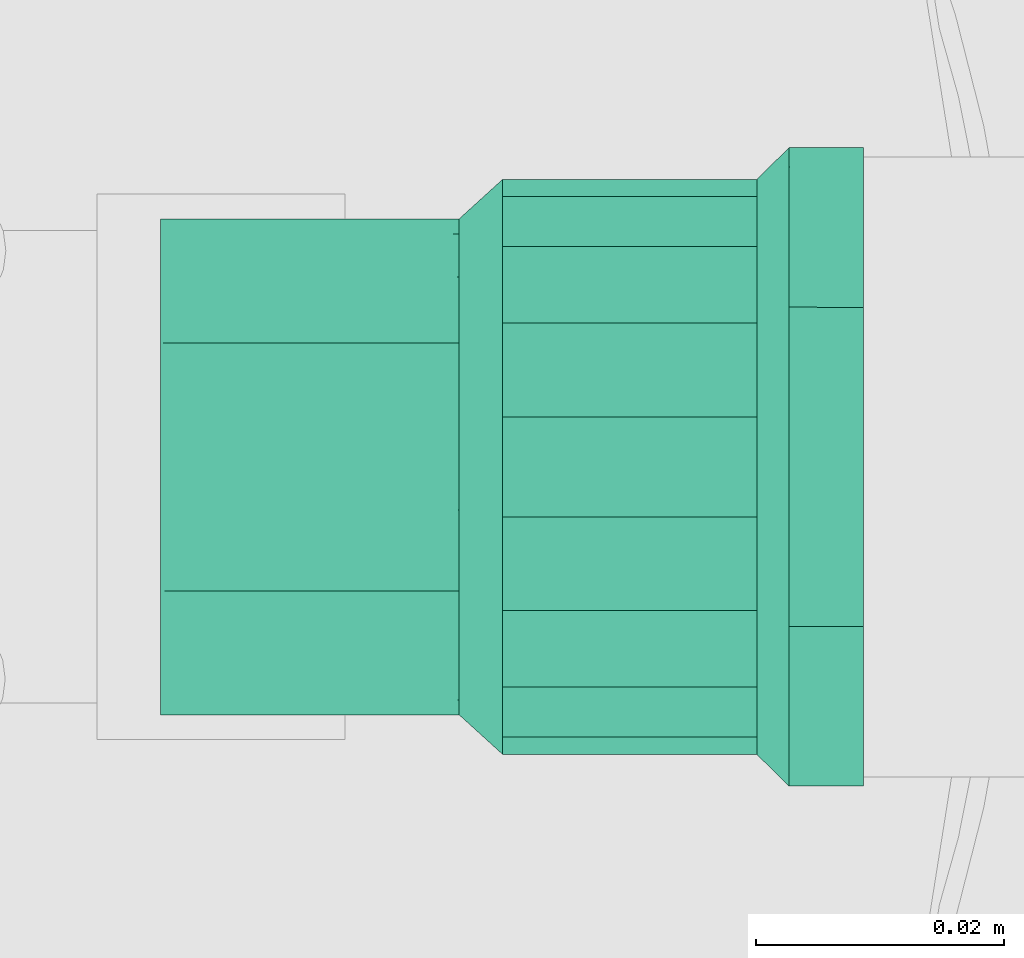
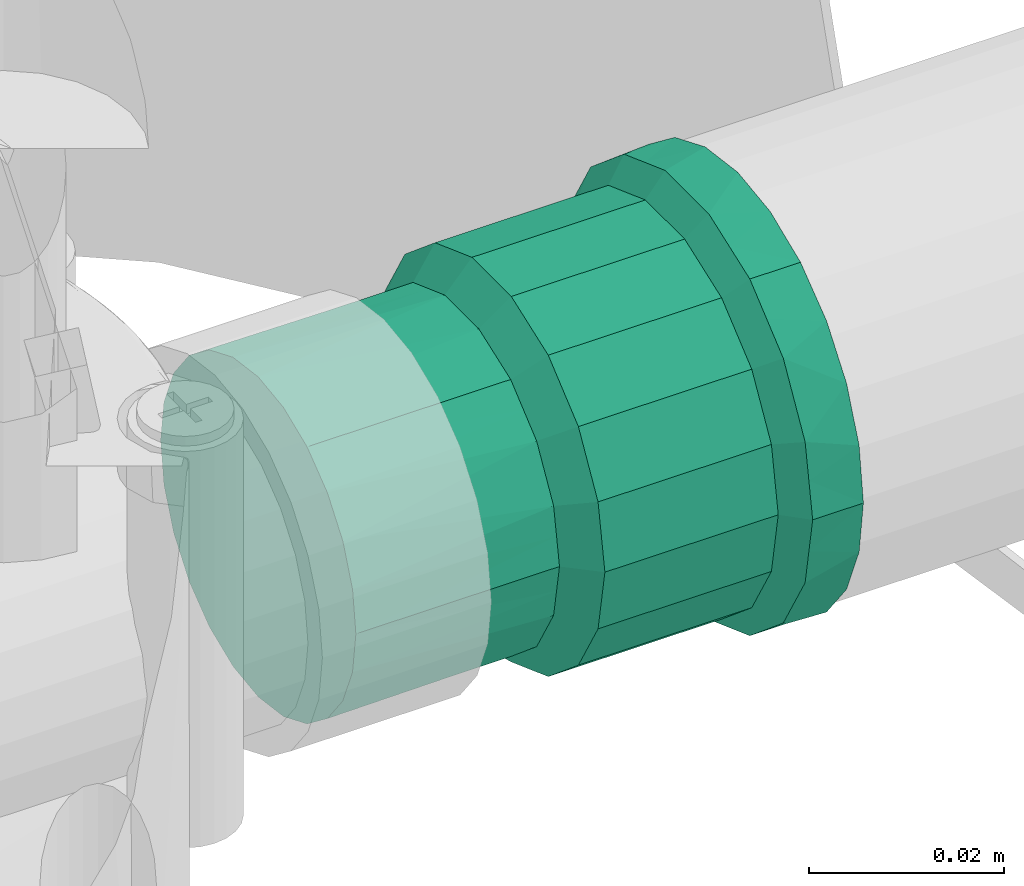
# One storey, part 150 of 166: 1 flow fitting.
"""IFC2X3 building model written with IfcOpenShell, lengths in metres."""

from ifc_helpers import new_model, entity, si_unit, converted_unit, direction, frame, origin, place, context, subcontext, project, spatial, faceted_brep, source, transform, mapped, material, type_object, type_shapes, element, save


model = new_model("IFC2X3")

# Units and contexts
model_context = context("Model", 3, precision=1e-05, world=origin(), true_north=direction((6.123233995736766e-17, 1.0)))
body_context = subcontext(model_context, "Body", "Model", "MODEL_VIEW")
ifc_project = project(units=[si_unit("LENGTHUNIT", "METRE"), converted_unit("PLANEANGLEUNIT", "DEGREE", entity("IfcPlaneAngleMeasure", 0.017453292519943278), si_unit("PLANEANGLEUNIT", "RADIAN"), dimensions=[0, 0, 0, 0, 0, 0, 0]), si_unit("AREAUNIT", "SQUARE_METRE")], contexts=[model_context])

# Site, building, storey
site_placement = place(None, origin())
site = spatial("IfcSite", under=ifc_project, at=site_placement, Name="Default", CompositionType="ELEMENT")
building_placement = place(site_placement, origin())
building = spatial("IfcBuilding", under=site, at=building_placement, Name="CASA DE ACOLHIDA PARA IDOSOS", CompositionType="ELEMENT")
storey_placement = place(building_placement, frame((0.0, 0.0, -1.7499999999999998)))
storey = spatial("IfcBuildingStorey", under=building, at=storey_placement, Name="IMPLANTAÇÃO DRENAGEM", CompositionType="ELEMENT", Elevation=-1.7499999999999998)

# Flow fitting
ifc_material = material(Name="PVC Marrom")
pipe_fitting_type = type_object("IfcPipeFittingType", Name="AF_Soldavel_Adaptador Curto com Bolsa e Rosca:Standard", PredefinedType="NOTDEFINED", material=ifc_material)
shared_shape = source(origin(), body_context, "Body", "Brep", [
    faceted_brep([(0.0, -0.012875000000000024, -0.02230015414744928), (0.0, -0.018207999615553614, -0.018207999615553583), (0.0, -0.0099999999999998, -0.017320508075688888), (0.0, -0.0051763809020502, -0.019318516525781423), (0.0, -0.006664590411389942, -0.0248725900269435), (0.0, -0.014142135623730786, -0.014142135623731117), (0.0, -0.022300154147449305, -0.01287499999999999), (0.0, -0.01732050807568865, -0.01000000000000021), (0.0, -0.0193185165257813, -0.005176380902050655), (0.0, -0.02487259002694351, -0.006664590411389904), (0.0, -0.02, 0.0), (0.0, -0.025750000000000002, 0.0), (0.0, -0.019318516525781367, 0.00517638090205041), (0.0, -0.024872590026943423, 0.006664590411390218), (0.0, -0.01732050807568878, 0.00999999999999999), (0.0, -0.02230015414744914, 0.012875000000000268), (0.0, -0.014142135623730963, 0.014142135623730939), (0.0, -0.018207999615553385, 0.018207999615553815), (0.0, -0.010000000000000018, 0.017320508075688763), (0.0, -0.012874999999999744, 0.022300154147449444), (0.0, -0.00517638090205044, 0.01931851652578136), (0.0, -0.006664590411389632, 0.024872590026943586), (0.0, 0.0, 0.02), (0.0, 0.0, 0.025750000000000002), (0.0, 0.005176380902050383, 0.019318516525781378), (0.0, 0.0066645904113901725, 0.024872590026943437), (0.0, 0.009999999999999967, 0.017320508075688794), (0.0, 0.012875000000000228, 0.022300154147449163), (0.0, 0.01414213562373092, 0.014142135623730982), (0.0, 0.01820799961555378, 0.01820799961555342), (0.0, 0.01732050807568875, 0.010000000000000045), (0.0, 0.02230015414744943, 0.012874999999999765), (0.0, 0.024872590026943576, 0.006664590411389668), (0.0, 0.01931851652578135, 0.005176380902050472), (0.0, 0.025750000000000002, 0.0), (0.0, 0.02, 0.0), (0.0, 0.02487259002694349, -0.006664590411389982), (0.0, 0.01931851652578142, -0.005176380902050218), (0.0, 0.02230015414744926, -0.012875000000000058), (0.0, 0.01732050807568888, -0.009999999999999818), (0.0, 0.01820799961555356, -0.018207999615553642), (0.0, 0.014142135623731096, -0.014142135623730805), (0.0, 0.012874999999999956, -0.022300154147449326), (0.0, 0.010000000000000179, -0.01732050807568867), (0.0, 0.006664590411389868, -0.024872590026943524), (0.0, 0.005176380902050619, -0.01931851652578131), (0.0, 0.0, -0.025750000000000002), (0.0, 0.0, -0.02), (0.005999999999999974, 0.024196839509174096, 0.008807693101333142), (0.005999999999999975, 0.024768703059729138, 0.005564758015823), (0.005999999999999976, 0.024973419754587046, 0.00440384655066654), (0.005999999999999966, 0.016298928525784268, 0.019427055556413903), (0.005999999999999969, 0.019724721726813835, 0.016552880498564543), (0.005999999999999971, 0.021960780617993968, 0.012680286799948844), (0.00599999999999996, 0.008670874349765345, 0.02383026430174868), (0.005999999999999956, 0.004468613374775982, 0.02535929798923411), (0.0059999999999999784, 0.025750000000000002, 0.0), (0.0059999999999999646, 0.01287313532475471, 0.02230123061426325), (0.00599999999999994, -0.012878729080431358, 0.022298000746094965), (0.005999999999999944, -0.008676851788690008, 0.023828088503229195), (0.005999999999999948, -0.004474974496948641, 0.02535817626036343), (0.005999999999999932, -0.019728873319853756, 0.016547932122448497), (0.005999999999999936, -0.016303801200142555, 0.019422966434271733), (0.0059999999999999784, -0.025750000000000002, 0.0), (0.005999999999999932, -0.024199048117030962, 0.008801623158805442), (0.005999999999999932, -0.021963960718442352, 0.012674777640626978), (0.0059999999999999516, -3.180561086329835e-06, 0.02535873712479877), (0.006000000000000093, -0.024199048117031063, -0.00880162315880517), (0.006000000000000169, -0.01630380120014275, -0.019422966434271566), (0.006000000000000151, -0.019728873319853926, -0.016547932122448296), (0.006000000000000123, -0.021963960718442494, -0.012674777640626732), (0.006000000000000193, -0.008676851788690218, -0.023828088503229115), (0.006000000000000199, -0.004474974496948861, -0.025358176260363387), (0.006000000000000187, -0.012878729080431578, -0.02229800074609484), (0.006000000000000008, 0.02497341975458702, -0.004403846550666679), (0.0060000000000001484, 0.012873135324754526, -0.022301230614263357), (0.006000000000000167, 0.008670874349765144, -0.023830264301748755), (0.006000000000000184, 0.004468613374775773, -0.02535929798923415), (0.006000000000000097, 0.01972472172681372, -0.016552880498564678), (0.006000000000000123, 0.016298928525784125, -0.019427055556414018), (0.006000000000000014, 0.024768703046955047, -0.005564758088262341), (0.006000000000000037, 0.024196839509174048, -0.008807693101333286), (0.006000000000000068, 0.021960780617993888, -0.012680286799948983), (0.006000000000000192, -3.1805610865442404e-06, -0.02535873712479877), (0.02909999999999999, 0.022482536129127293, 0.004068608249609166), (0.02910000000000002, 0.023200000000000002, 0.0), (0.00860000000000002, 0.023200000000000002, 0.0), (0.008600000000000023, 0.022500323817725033, 0.003967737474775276), (0.008600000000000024, 0.021800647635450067, 0.007935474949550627), (0.029099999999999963, 0.021800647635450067, 0.007935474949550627), (0.02909999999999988, 0.014684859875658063, 0.017503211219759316), (0.029099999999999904, 0.017771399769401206, 0.014913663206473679), (0.008600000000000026, 0.017771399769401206, 0.014913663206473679), (0.00860000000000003, 0.014684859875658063, 0.017503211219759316), (0.00860000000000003, 0.011598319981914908, 0.020092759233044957), (0.02909999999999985, 0.011598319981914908, 0.020092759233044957), (0.02909999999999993, 0.019786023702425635, 0.01142456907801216), (0.008600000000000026, 0.019786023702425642, 0.011424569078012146), (0.029099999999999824, 0.004026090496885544, 0.02284798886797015), (0.02909999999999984, 0.007812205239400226, 0.021470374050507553), (0.00860000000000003, 0.007812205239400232, 0.02147037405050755), (0.00860000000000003, 0.004026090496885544, 0.02284798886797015), (0.029099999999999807, -0.004031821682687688, 0.022846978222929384), (0.029099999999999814, -2.8655929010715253e-06, 0.022847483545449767), (0.00860000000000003, -2.8655929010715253e-06, 0.022847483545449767), (0.00860000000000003, -0.004031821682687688, 0.022846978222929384), (0.029099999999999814, -0.007817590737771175, 0.021468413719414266), (0.00860000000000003, -0.007817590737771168, 0.021468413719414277), (0.00860000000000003, -0.011603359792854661, 0.020089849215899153), (0.029099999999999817, -0.011603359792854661, 0.020089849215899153), (0.00860000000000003, -0.01468925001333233, 0.017499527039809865), (0.00860000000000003, -0.017775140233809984, 0.014909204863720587), (0.029099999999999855, -0.017775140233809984, 0.014909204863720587), (0.02909999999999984, -0.014689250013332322, 0.01749952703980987), (0.02909999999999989, -0.019788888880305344, 0.011419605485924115), (0.00860000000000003, -0.019788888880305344, 0.01141960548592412), (0.008600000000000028, -0.021802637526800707, 0.00793000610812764), (0.02909999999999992, -0.021802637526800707, 0.00793000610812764), (0.00860000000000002, -0.023200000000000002, 0.0), (0.02910000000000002, -0.023200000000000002, 0.0), (0.029100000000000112, -0.021802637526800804, -0.007930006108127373), (0.008600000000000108, -0.021802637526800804, -0.007930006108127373), (0.00860000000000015, 0.01468485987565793, -0.017503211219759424), (0.008600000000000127, 0.0177713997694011, -0.014913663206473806), (0.029100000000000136, 0.0177713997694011, -0.014913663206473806), (0.02910000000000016, 0.01468485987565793, -0.017503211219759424), (0.02910000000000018, 0.011598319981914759, -0.020092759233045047), (0.00860000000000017, 0.011598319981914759, -0.020092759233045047), (0.02910000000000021, -0.01160335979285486, -0.020089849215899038), (0.029100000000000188, -0.014689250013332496, -0.017499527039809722), (0.02910000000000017, -0.017775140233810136, -0.014909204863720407), (0.008600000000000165, -0.017775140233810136, -0.014909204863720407), (0.00860000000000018, -0.014689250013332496, -0.017499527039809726), (0.0086000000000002, -0.01160335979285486, -0.020089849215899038), (0.008600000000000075, 0.021800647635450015, -0.007935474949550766), (0.02910000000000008, 0.021800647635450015, -0.007935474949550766), (0.029100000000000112, 0.01978602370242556, -0.011424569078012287), (0.0086000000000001, 0.01978602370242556, -0.011424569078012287), (0.008600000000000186, 0.007812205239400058, -0.021470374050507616), (0.029100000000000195, 0.007812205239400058, -0.021470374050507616), (0.029100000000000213, 0.004026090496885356, -0.022847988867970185), (0.008600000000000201, 0.004026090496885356, -0.022847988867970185), (0.02910000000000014, -0.019788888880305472, -0.01141960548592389), (0.008600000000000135, -0.01978888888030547, -0.01141960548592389), (0.008600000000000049, 0.02250032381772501, -0.00396773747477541), (0.029100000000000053, 0.02248253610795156, -0.004068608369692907), (0.029100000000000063, 0.022258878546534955, -0.0053369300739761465), (0.029100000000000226, -0.0040318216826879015, -0.022846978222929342), (0.029100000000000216, -0.00781759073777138, -0.02146841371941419), (0.008600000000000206, -0.00781759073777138, -0.02146841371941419), (0.008600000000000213, -0.0040318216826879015, -0.022846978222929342), (0.02910000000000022, -2.8655929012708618e-06, -0.022847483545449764), (0.008600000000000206, -2.8655929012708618e-06, -0.022847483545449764), (0.056699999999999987, -0.010000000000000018, -0.017320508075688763), (0.056699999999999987, -0.00517638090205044, -0.01931851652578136), (0.056699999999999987, 0.0, -0.02), (0.056699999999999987, 0.005176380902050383, -0.019318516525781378), (0.056699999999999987, 0.009999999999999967, -0.017320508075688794), (0.056699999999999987, 0.01414213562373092, -0.014142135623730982), (0.056699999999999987, 0.01732050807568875, -0.010000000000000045), (0.056699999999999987, 0.01931851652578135, -0.005176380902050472), (0.056699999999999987, 0.02, 0.0), (0.056699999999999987, 0.01931851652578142, 0.005176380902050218), (0.056699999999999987, 0.01732050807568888, 0.009999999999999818), (0.056699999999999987, 0.014142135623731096, 0.014142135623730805), (0.056699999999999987, 0.010000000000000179, 0.01732050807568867), (0.056699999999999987, 0.005176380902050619, 0.01931851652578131), (0.056699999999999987, 0.0, 0.02), (0.056699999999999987, -0.0051763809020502, 0.019318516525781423), (0.056699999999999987, -0.0099999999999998, 0.017320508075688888), (0.056699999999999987, -0.014142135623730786, 0.014142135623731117), (0.056699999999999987, -0.01732050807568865, 0.01000000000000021), (0.056699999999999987, -0.0193185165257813, 0.005176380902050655), (0.056699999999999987, -0.02, 0.0), (0.056699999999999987, -0.019318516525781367, -0.00517638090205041), (0.056699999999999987, -0.01732050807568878, -0.009999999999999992), (0.056699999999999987, -0.014142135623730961, -0.01414213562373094), (0.03261999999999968, 0.0067346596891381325, 0.018508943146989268), (0.03261999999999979, 0.015320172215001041, 0.012856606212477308), (0.03261999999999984, 0.017056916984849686, 0.0098487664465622), (0.032619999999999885, 0.01879366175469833, 0.006840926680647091), (0.032619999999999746, 0.012659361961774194, 0.015088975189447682), (0.032619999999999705, 0.009998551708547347, 0.01732134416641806), (0.032619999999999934, 0.01939683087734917, 0.003420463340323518), (0.03261999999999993, 0.019188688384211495, 0.004600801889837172), (0.03261999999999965, 0.0034707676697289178, 0.019696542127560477), (0.032619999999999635, -2.470338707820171e-06, 0.019696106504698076), (0.03261999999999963, -0.0034757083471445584, 0.019695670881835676), (0.03261999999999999, 0.02, 0.0), (0.032619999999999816, -0.01879537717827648, 0.006836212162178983), (0.03261999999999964, -0.006739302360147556, 0.018507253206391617), (0.032619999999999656, -0.010002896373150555, 0.017318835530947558), (0.03261999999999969, -0.012663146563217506, 0.0150857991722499), (0.03261999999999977, -0.01705938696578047, 0.009844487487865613), (0.03261999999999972, -0.015323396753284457, 0.012852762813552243), (0.03261999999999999, -0.02, 0.0), (0.03262000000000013, -0.015323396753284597, -0.012852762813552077), (0.0326200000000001, -0.017059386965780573, -0.009844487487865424), (0.03262000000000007, -0.018795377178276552, -0.006836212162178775), (0.03262000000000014, -0.012663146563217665, -0.015085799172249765), (0.032620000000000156, -0.010002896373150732, -0.017318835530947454), (0.03262000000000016, -0.006739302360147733, -0.01850725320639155), (0.03262000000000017, -0.0034757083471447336, -0.019695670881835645), (0.03262000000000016, -2.4703387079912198e-06, -0.019696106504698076), (0.032620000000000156, 0.0034707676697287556, -0.019696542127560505), (0.03262000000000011, 0.012659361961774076, -0.015088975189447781), (0.032620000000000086, 0.015320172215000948, -0.01285660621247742), (0.03262000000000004, 0.018793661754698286, -0.006840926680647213), (0.03262000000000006, 0.01705691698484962, -0.009848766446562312), (0.03262000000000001, 0.01939683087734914, -0.0034204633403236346), (0.03262000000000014, 0.006734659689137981, -0.018508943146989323), (0.03262000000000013, 0.009998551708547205, -0.017321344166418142), (0.00860000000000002, 0.019318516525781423, -0.005176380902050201), (0.02910000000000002, 0.019318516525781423, -0.005176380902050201), (0.02910000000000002, 0.02, 0.0), (0.00860000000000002, 0.02, 0.0), (0.0059999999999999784, 0.02, 0.0), (0.0059999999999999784, 0.019318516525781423, -0.005176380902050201), (0.00860000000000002, 0.017320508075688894, -0.009999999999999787), (0.02910000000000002, 0.017320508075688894, -0.009999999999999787), (0.0059999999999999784, 0.017320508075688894, -0.009999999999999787), (0.02910000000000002, 0.010000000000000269, -0.017320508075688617), (0.02910000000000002, 0.014142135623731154, -0.014142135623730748), (0.00860000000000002, 0.014142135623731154, -0.014142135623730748), (0.0059999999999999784, 0.014142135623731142, -0.01414213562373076), (0.0059999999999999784, 0.010000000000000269, -0.017320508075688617), (0.00860000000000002, 0.010000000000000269, -0.017320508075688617), (0.02910000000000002, 0.005176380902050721, -0.019318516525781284), (0.0059999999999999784, 0.005176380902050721, -0.019318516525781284), (0.00860000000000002, 0.005176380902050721, -0.019318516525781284), (0.02910000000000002, 0.0, -0.02), (0.0059999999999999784, 0.0, -0.02), (0.00860000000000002, 0.0, -0.02), (0.00860000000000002, -0.005176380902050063, -0.01931851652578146), (0.02910000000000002, -0.005176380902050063, -0.01931851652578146), (0.0059999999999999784, -0.005176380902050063, -0.01931851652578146), (0.00860000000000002, -0.009999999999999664, -0.017320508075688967), (0.02910000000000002, -0.009999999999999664, -0.017320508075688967), (0.0059999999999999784, -0.009999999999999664, -0.017320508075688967), (0.02910000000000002, -0.017320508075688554, -0.010000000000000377), (0.02910000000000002, -0.014142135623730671, -0.01414213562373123), (0.00860000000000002, -0.014142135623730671, -0.01414213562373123), (0.0059999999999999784, -0.01414213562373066, -0.014142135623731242), (0.0059999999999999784, -0.017320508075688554, -0.010000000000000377), (0.00860000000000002, -0.017320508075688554, -0.010000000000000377), (0.02910000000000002, -0.019318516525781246, -0.00517638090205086), (0.0059999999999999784, -0.019318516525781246, -0.00517638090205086), (0.00860000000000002, -0.019318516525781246, -0.00517638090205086), (0.00860000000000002, -0.02, 0.0), (0.02910000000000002, -0.02, 0.0), (0.0059999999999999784, -0.02, 0.0), (0.00860000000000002, -0.01931851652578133, 0.005176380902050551), (0.02910000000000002, -0.01931851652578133, 0.005176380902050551), (0.0059999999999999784, -0.01931851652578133, 0.005176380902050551), (0.00860000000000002, -0.017320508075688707, 0.010000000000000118), (0.02910000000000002, -0.017320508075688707, 0.010000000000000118), (0.0059999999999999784, -0.017320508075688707, 0.010000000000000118), (0.02910000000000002, -0.009999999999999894, 0.017320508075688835), (0.02910000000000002, -0.014142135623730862, 0.014142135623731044), (0.00860000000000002, -0.014142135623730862, 0.014142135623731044), (0.0059999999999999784, -0.014142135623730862, 0.014142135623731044), (0.0059999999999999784, -0.009999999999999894, 0.017320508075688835), (0.00860000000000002, -0.009999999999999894, 0.017320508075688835), (0.02910000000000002, -0.005176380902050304, 0.019318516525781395), (0.0059999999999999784, -0.005176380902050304, 0.019318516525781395), (0.00860000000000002, -0.005176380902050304, 0.019318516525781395), (0.02910000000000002, 0.0, 0.02), (0.0059999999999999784, 0.0, 0.02), (0.00860000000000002, 0.0, 0.02), (0.0059999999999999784, 0.005176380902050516, 0.01931851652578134), (0.00860000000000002, 0.005176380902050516, 0.01931851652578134), (0.02910000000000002, 0.005176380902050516, 0.01931851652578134), (0.02910000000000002, 0.017320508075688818, 0.009999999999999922), (0.00860000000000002, 0.017320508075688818, 0.009999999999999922), (0.0059999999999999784, 0.017320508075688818, 0.009999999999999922), (0.0059999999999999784, 0.019318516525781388, 0.005176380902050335), (0.00860000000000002, 0.019318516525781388, 0.005176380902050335), (0.02910000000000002, 0.019318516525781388, 0.005176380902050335), (0.02910000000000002, 0.014142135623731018, 0.014142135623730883), (0.00860000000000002, 0.014142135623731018, 0.014142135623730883), (0.0059999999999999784, 0.014142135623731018, 0.014142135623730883), (0.0059999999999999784, 0.010000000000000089, 0.017320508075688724), (0.00860000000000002, 0.010000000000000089, 0.017320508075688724), (0.02910000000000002, 0.010000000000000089, 0.017320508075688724)], [[[0, 1, 2]], [[0, 2, 3]], [[3, 4, 0]], [[2, 1, 5]], [[6, 5, 1]], [[7, 5, 6]], [[8, 7, 6]], [[8, 6, 9]], [[8, 9, 10]], [[10, 9, 11]], [[12, 10, 11]], [[12, 11, 13]], [[14, 12, 13]], [[14, 13, 15]], [[16, 14, 15]], [[15, 17, 16]], [[17, 18, 16]], [[18, 17, 19]], [[18, 19, 20]], [[21, 20, 19]], [[20, 21, 22]], [[22, 21, 23]], [[23, 24, 22]], [[24, 23, 25]], [[24, 25, 26]], [[27, 26, 25]], [[27, 28, 26]], [[27, 29, 28]], [[30, 28, 29]], [[31, 30, 29]], [[32, 30, 31]], [[33, 30, 32]], [[33, 32, 34]], [[34, 35, 33]], [[36, 35, 34]], [[36, 37, 35]], [[37, 36, 38]], [[39, 37, 38]], [[39, 38, 40]], [[39, 40, 41]], [[40, 42, 41]], [[41, 42, 43]], [[43, 42, 44]], [[44, 45, 43]], [[46, 45, 44]], [[4, 47, 46]], [[46, 47, 45]], [[4, 3, 47]], [[32, 48, 49, 50]], [[51, 52, 29]], [[53, 48, 31, 52]], [[54, 25, 55]], [[48, 32, 31]], [[34, 50, 56]], [[27, 57, 51]], [[29, 27, 51]], [[29, 52, 31]], [[19, 58, 59]], [[21, 19, 59]], [[54, 57, 27]], [[25, 54, 27]], [[55, 25, 23]], [[32, 50, 34]], [[59, 60, 21]], [[61, 62, 17]], [[63, 64, 13]], [[65, 61, 15, 64]], [[11, 63, 13]], [[17, 62, 19]], [[66, 55, 23, 60]], [[21, 60, 23]], [[61, 17, 15]], [[19, 62, 58]], [[13, 64, 15]], [[67, 63, 9]], [[68, 69, 1]], [[70, 67, 6, 69]], [[71, 4, 72]], [[67, 9, 6]], [[63, 11, 9]], [[4, 71, 0]], [[0, 73, 68]], [[1, 69, 6]], [[36, 34, 74]], [[42, 75, 76]], [[71, 73, 0]], [[44, 42, 76]], [[72, 4, 46]], [[1, 0, 68]], [[76, 77, 44]], [[78, 79, 40]], [[36, 74, 80, 81]], [[82, 78, 38, 81]], [[36, 81, 38]], [[40, 79, 42]], [[83, 72, 46, 77]], [[44, 77, 46]], [[78, 40, 38]], [[42, 79, 75]], [[34, 56, 74]], [[84, 85, 86, 87, 88, 89]], [[90, 91, 92, 93, 94, 95]], [[91, 96, 89, 88, 97, 92]], [[98, 99, 95, 94, 100, 101]], [[102, 103, 98, 101, 104, 105]], [[106, 102, 105, 107, 108, 109]], [[110, 111, 112, 113, 109, 108]], [[114, 112, 111, 115, 116, 117]], [[116, 118, 119, 117]], [[120, 119, 118, 121]], [[122, 123, 124, 125, 126, 127]], [[128, 129, 130, 131, 132, 133]], [[134, 135, 136, 124, 123, 137]], [[138, 127, 126, 139, 140, 141]], [[130, 142, 120, 121, 143, 131]], [[144, 86, 85, 145, 146, 135, 134]], [[147, 148, 128, 133, 149, 150]], [[140, 151, 147, 150, 152, 141]], [[153, 154, 155, 156, 157, 158, 159, 160, 161, 162, 163, 164, 165, 166, 167, 168, 169, 170, 171, 172, 173, 174, 175, 176]], [[166, 165, 177]], [[178, 164, 163]], [[179, 178, 163, 180]], [[165, 181, 182]], [[162, 183, 184, 180]], [[177, 185, 166]], [[181, 164, 178]], [[186, 187, 167, 185]], [[164, 181, 165]], [[162, 161, 183]], [[161, 188, 183]], [[162, 180, 163]], [[167, 187, 168]], [[189, 172, 171]], [[168, 190, 169]], [[169, 191, 192]], [[193, 189, 171, 194]], [[173, 172, 195]], [[168, 187, 190]], [[190, 191, 169]], [[170, 194, 171]], [[165, 182, 177]], [[192, 194, 170]], [[170, 169, 192]], [[189, 195, 172]], [[166, 185, 167]], [[174, 173, 195]], [[196, 176, 175]], [[197, 196, 175, 198]], [[153, 199, 200]], [[174, 195, 198]], [[201, 202, 154]], [[199, 176, 196]], [[203, 204, 155, 202]], [[154, 202, 155]], [[176, 199, 153]], [[158, 157, 205]], [[154, 153, 201]], [[153, 200, 201]], [[158, 206, 159]], [[174, 198, 175]], [[207, 160, 159]], [[208, 207, 159, 206]], [[160, 209, 161]], [[209, 188, 161]], [[204, 210, 156]], [[156, 155, 204]], [[157, 210, 211]], [[156, 210, 157]], [[205, 206, 158]], [[160, 207, 209]], [[157, 211, 205]], [[212, 213, 214, 215, 216, 35, 37, 217]], [[218, 219, 213, 212, 217, 37, 39, 220]], [[221, 222, 223, 224, 41, 43, 225, 226]], [[218, 220, 39, 41, 224, 223, 222, 219]], [[227, 221, 226, 225, 43, 45, 228, 229]], [[230, 227, 229, 228, 45, 47, 231, 232]], [[233, 234, 230, 232, 231, 47, 3, 235]], [[236, 237, 234, 233, 235, 3, 2, 238]], [[239, 240, 241, 242, 5, 7, 243, 244]], [[236, 238, 2, 5, 242, 241, 240, 237]], [[245, 239, 244, 243, 7, 8, 246, 247]], [[248, 249, 245, 247, 246, 8, 10, 250]], [[251, 252, 249, 248, 250, 10, 12, 253]], [[254, 255, 252, 251, 253, 12, 14, 256]], [[257, 258, 259, 260, 16, 18, 261, 262]], [[254, 256, 14, 16, 260, 259, 258, 255]], [[263, 257, 262, 261, 18, 20, 264, 265]], [[266, 263, 265, 264, 20, 22, 267, 268]], [[268, 267, 22, 24, 269, 270, 271, 266]], [[272, 273, 274, 30, 33, 275, 276, 277]], [[273, 272, 278, 279, 280, 28, 30, 274]], [[277, 276, 275, 33, 35, 216, 215, 214]], [[271, 270, 269, 24, 26, 281, 282, 283]], [[283, 282, 281, 26, 28, 280, 279, 278]], [[63, 67, 121, 118]], [[68, 73, 133, 132, 131, 69]], [[149, 133, 73, 71, 72, 150]], [[70, 69, 131, 143, 121, 67]], [[76, 75, 127, 138, 141, 77]], [[82, 81, 134, 137, 123, 78]], [[144, 134, 81, 80, 74, 56, 86]], [[141, 152, 150, 72, 83, 77]], [[123, 122, 127, 75, 79, 78]], [[87, 86, 56, 50, 49, 48, 88]], [[97, 88, 48, 53, 52, 92]], [[93, 92, 52, 51, 57, 94]], [[57, 54, 55, 101, 100, 94]], [[66, 60, 105, 104, 101, 55]], [[58, 108, 107, 105, 60, 59]], [[63, 118, 116, 64]], [[61, 65, 64, 116, 115, 111]], [[58, 62, 61, 111, 110, 108]], [[227, 230, 234, 237, 240, 239, 245, 249, 252, 255, 258, 257, 263, 266, 271, 283, 278, 272, 277, 214, 213, 219, 222, 221]], [[180, 184, 183, 188, 85, 84, 89]], [[99, 98, 185, 177, 182, 95]], [[182, 181, 178, 91, 90, 95]], [[178, 179, 180, 89, 96, 91]], [[103, 102, 187, 186, 185, 98]], [[114, 117, 189, 193, 194, 112]], [[106, 109, 191, 190, 187, 102]], [[117, 119, 195, 189]], [[194, 192, 191, 109, 113, 112]], [[119, 120, 198, 195]], [[201, 200, 128, 148, 147, 202]], [[129, 128, 200, 199, 196, 130]], [[196, 197, 198, 120, 142, 130]], [[139, 126, 211, 210, 204, 140]], [[136, 135, 207, 208, 206, 124]], [[209, 207, 135, 146, 145, 85, 188]], [[204, 203, 202, 147, 151, 140]], [[206, 205, 211, 126, 125, 124]]]),
])
type_shapes(pipe_fitting_type, [shared_shape])
flow_fitting_placement = place(storey_placement, frame((-49.022586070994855, 36.05494207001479, -0.2), z_axis=(0.0, 0.0, 1.0), x_axis=(-1.0, 0.0, 0.0)))
element("IfcFlowFitting", 1, at=flow_fitting_placement, inside=storey, type_object=pipe_fitting_type, material=ifc_material, Name="AF_Soldavel_Adaptador Curto com Bolsa e Rosca:Standard", ObjectType="AF_Soldavel_Adaptador Curto com Bolsa e Rosca:Standard", context=body_context, shape_type="MappedRepresentation", body=[
    mapped(shared_shape, transform((0.0, 0.0, 0.0), scale=1.0)),
])

save(model, "model.ifc")
